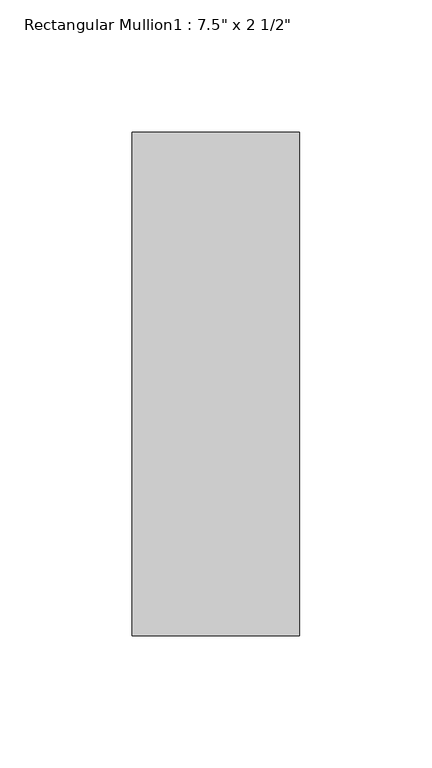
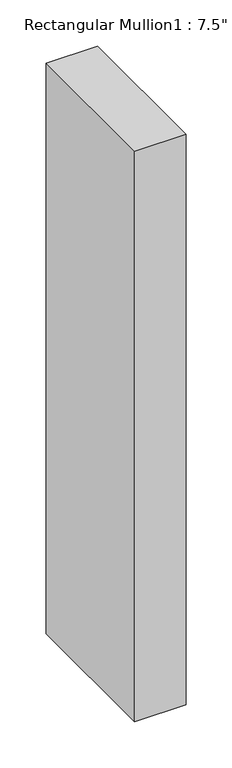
"""IFC4 building model written with IfcOpenShell, lengths in millimetres: member geometry."""

import ifcopenshell
import ifcopenshell.guid

model = None  # the IFC model being written
_history = None  # IfcOwnerHistory: only IFC2X3 demands one
_inside = {}  # id of a spatial element -> (the spatial element, [elements in it])
_under = {}  # id of a project, library or spatial element -> (it, [spatial elements below it])
_declared = {}  # id of a project -> (the project, [libraries it declares])
_typed = {}  # id of a type object -> (the type object, [elements of that type])
_made_of = {}  # id of a material, layer set ... -> (it, [elements and type objects made of it])


def new_model(schema):
    """Start an empty IFC model of exactly this schema.

    Asked for "IFC4X3", IfcOpenShell would pick the latest addendum, in which some entities
    have other attributes; the version numbers below select the first issue.
    IFC2X3 requires an IfcOwnerHistory on every rooted entity: one is made here for all.
    """
    global model, _history
    if schema == "IFC4X3":
        model = ifcopenshell.file(schema_version=(4, 3, 0, 0))
    else:
        model = ifcopenshell.file(schema=schema)
    _inside.clear()
    _under.clear()
    _declared.clear()
    _typed.clear()
    _made_of.clear()
    _history = None
    if model.schema == "IFC2X3":
        org = make("IfcOrganization", Name="unknown")
        user = make(
            "IfcPersonAndOrganization",
            ThePerson=make("IfcPerson", FamilyName="unknown"),
            TheOrganization=org,
        )
        app = make(
            "IfcApplication",
            ApplicationDeveloper=org,
            Version="unknown",
            ApplicationFullName="unknown",
            ApplicationIdentifier="unknown",
        )
        _history = make(
            "IfcOwnerHistory",
            OwningUser=user,
            OwningApplication=app,
            ChangeAction="ADDED",
            CreationDate=0,
        )
    return model


def make(cls, **values):
    """One entity of the class cls with the attributes given. An attribute that is None is left unset."""
    return model.create_entity(
        cls, **{name: value for name, value in values.items() if value is not None}
    )


def rooted(cls, **values):
    """An entity with a GlobalId (a new one), such as an element, a storey or a relation."""
    return make(cls, GlobalId=ifcopenshell.guid.new(), OwnerHistory=_history, **values)


def si_unit(unit_type, name, prefix=None):
    """IfcSIUnit, for example si_unit("LENGTHUNIT", "METRE", prefix="MILLI")."""
    return make("IfcSIUnit", UnitType=unit_type, Prefix=prefix, Name=name)


def assignment(units):
    """IfcUnitAssignment: the units of a project."""
    return None if units is None else make("IfcUnitAssignment", Units=units)


def point(xyz):
    """IfcCartesianPoint."""
    return None if xyz is None else make("IfcCartesianPoint", Coordinates=xyz)


def direction(xyz):
    """IfcDirection."""
    return None if xyz is None else make("IfcDirection", DirectionRatios=xyz)


def frame(location, z_axis=None, x_axis=None):
    """IfcAxis2Placement3D, a coordinate frame: its origin and axes. An axis left out is left unset."""
    return make(
        "IfcAxis2Placement3D",
        Location=point(location),
        Axis=direction(z_axis),
        RefDirection=direction(x_axis),
    )


def origin():
    """The frame at (0, 0, 0) with its axes left unset."""
    return frame((0.0, 0.0, 0.0))


def place(relative_to, where):
    """IfcLocalPlacement: puts the frame where relative to a parent placement (None: the world)."""
    return make(
        "IfcLocalPlacement", PlacementRelTo=relative_to, RelativePlacement=where
    )


def context(
    kind, dimensions, precision=None, world=None, true_north=None, identifier=None
):
    """IfcGeometricRepresentationContext, for example the 3D "Model" context."""
    return make(
        "IfcGeometricRepresentationContext",
        ContextIdentifier=identifier,
        ContextType=kind,
        CoordinateSpaceDimension=dimensions,
        Precision=precision,
        WorldCoordinateSystem=world,
        TrueNorth=true_north,
    )


def project(units=None, contexts=None):
    """IfcProject with its units and contexts."""
    return rooted(
        "IfcProject",
        Name="project",
        RepresentationContexts=contexts,
        UnitsInContext=assignment(units),
    )


def spatial(cls, under=None, at=None, **own):
    """A site, building, storey or space (cls), placed at a placement, below another one or the project."""
    s = rooted(cls, ObjectPlacement=at, **own)
    if under is not None:
        _under.setdefault(under.id(), (under, []))[1].append(s)
    return s


def polyline(points):
    """IfcPolyline through the points."""
    return make("IfcPolyline", Points=[point(p) for p in points])


def outline(outer, holes=None, kind="AREA"):
    """IfcArbitraryClosedProfileDef: a profile drawn as a closed curve; with holes, ...WithVoids."""
    if holes is None:
        return make("IfcArbitraryClosedProfileDef", ProfileType=kind, OuterCurve=outer)
    return make(
        "IfcArbitraryProfileDefWithVoids",
        ProfileType=kind,
        OuterCurve=outer,
        InnerCurves=holes,
    )


def extrude(swept, where, along, depth):
    """IfcExtrudedAreaSolid: the profile swept, set in the frame where, extruded along a direction by depth."""
    return make(
        "IfcExtrudedAreaSolid",
        SweptArea=swept,
        Position=where,
        ExtrudedDirection=direction(along),
        Depth=depth,
    )


def shape(context_of_items, identifier, shape_type, items):
    """IfcShapeRepresentation: the items that make up one representation, for example the "Body"."""
    return make(
        "IfcShapeRepresentation",
        ContextOfItems=context_of_items,
        RepresentationIdentifier=identifier,
        RepresentationType=shape_type,
        Items=items,
    )


def source(mapping_origin, context_of_items, identifier, shape_type, items):
    """IfcRepresentationMap: a shape defined once, which mapped items show again and again."""
    return make(
        "IfcRepresentationMap",
        MappingOrigin=mapping_origin,
        MappedRepresentation=shape(context_of_items, identifier, shape_type, items),
    )


def transform(
    local_origin,
    x_axis=None,
    y_axis=None,
    z_axis=None,
    scale=None,
    scale2=None,
    scale3=None,
    uniform=True,
):
    """IfcCartesianTransformationOperator3D, or its non-uniform kind. x_axis, y_axis, z_axis: its Axis1, 2, 3."""
    if uniform:
        return make(
            "IfcCartesianTransformationOperator3D",
            Axis1=direction(x_axis),
            Axis2=direction(y_axis),
            LocalOrigin=point(local_origin),
            Scale=scale,
            Axis3=direction(z_axis),
        )
    return make(
        "IfcCartesianTransformationOperator3DnonUniform",
        Axis1=direction(x_axis),
        Axis2=direction(y_axis),
        LocalOrigin=point(local_origin),
        Scale=scale,
        Axis3=direction(z_axis),
        Scale2=scale2,
        Scale3=scale3,
    )


def mapped(mapping_source, mapping_target):
    """IfcMappedItem: shows the shape of a source again, moved by a transform."""
    return make(
        "IfcMappedItem", MappingSource=mapping_source, MappingTarget=mapping_target
    )


def made_of(thing, what):
    """Note that an element or type object is made of a material, layer set ...; save() writes the relation."""
    if what is not None:
        _made_of.setdefault(what.id(), (what, []))[1].append(thing)
    return thing


def element(
    cls,
    number,
    at=None,
    inside=None,
    cuts=None,
    type_object=None,
    material=None,
    context=None,
    identifier="Body",
    shape_type=None,
    held_by="IfcProductDefinitionShape",
    body=None,
    shapes=None,
    **own,
):
    """One element of the class cls, such as IfcWall. Its Tag is "e" and its number.

    at: its placement. inside: the storey or other place that contains it. cuts: it is an
    opening in that element (IfcRelVoidsElement). A single representation is given by context,
    identifier, shape_type and body (its items); several are given by shapes. held_by: the class
    of the entity that holds the representations. save() writes the other relations.
    """
    e = rooted(cls, Tag="e%d" % number, ObjectPlacement=at, **own)
    if body is not None:
        shapes = [shape(context, identifier, shape_type, body)]
    if shapes is not None:
        e.Representation = make(held_by, Representations=shapes)
    if inside is not None:
        _inside.setdefault(inside.id(), (inside, []))[1].append(e)
    if cuts is not None:
        rooted(
            "IfcRelVoidsElement", RelatingBuildingElement=cuts, RelatedOpeningElement=e
        )
    if type_object is not None:
        _typed.setdefault(type_object.id(), (type_object, []))[1].append(e)
    return made_of(e, material)


def aggregate(whole, parts):
    """IfcRelAggregates: a whole, such as a stair, and the parts it consists of."""
    return rooted("IfcRelAggregates", RelatingObject=whole, RelatedObjects=parts)


def save(model, path):
    """Write the relations noted so far, then the file.

    IfcRelAggregates (storeys below a building ...), IfcRelContainedInSpatialStructure (elements
    in a storey), IfcRelDefinesByType, IfcRelAssociatesMaterial and IfcRelDeclares: one each for
    every whole, place, type object, material and project.
    """
    for whole, parts in _under.values():
        aggregate(whole, parts)
    for where, things in _inside.values():
        rooted(
            "IfcRelContainedInSpatialStructure",
            RelatedElements=things,
            RelatingStructure=where,
        )
    for kind, things in _typed.values():
        rooted("IfcRelDefinesByType", RelatedObjects=things, RelatingType=kind)
    for what, things in _made_of.values():
        rooted("IfcRelAssociatesMaterial", RelatedObjects=things, RelatingMaterial=what)
    for by, libraries in _declared.values():
        rooted("IfcRelDeclares", RelatingContext=by, RelatedDefinitions=libraries)
    model.write(path)


def member_1b6bff26(model_context):
    return source(origin(), model_context, "Body", "SweptSolid", [
        extrude(outline(polyline([(-63.5, 165.1), (0.0, 165.1), (0.0, -25.4), (-63.5, -25.4), (-63.5, 165.1)])), frame((0.0, 0.0, -749.3), z_axis=(0.0, 0.0, 1.0), x_axis=(1.0, 0.0, 0.0)), (0.0, 0.0, 1.0), 749.3),
    ])


if __name__ == "__main__":
    model = new_model("IFC4")
    model_context = context("Model", 3, world=origin())
    ifc_project = project(units=[si_unit("LENGTHUNIT", "METRE", prefix="MILLI")], contexts=[model_context])
    site = spatial("IfcSite", under=ifc_project)
    building = spatial("IfcBuilding", under=site)
    placement = place(None, origin())
    member_shape = member_1b6bff26(model_context)
    element("IfcMember", 1, ObjectType="Rectangular Mullion1 : 7.5\" x 2 1/2\"", at=placement, inside=building, context=model_context, shape_type="MappedRepresentation", body=[
        mapped(member_shape, transform((0.0, 0.0, 0.0), x_axis=(1.0, 0.0, 0.0), y_axis=(0.0, 1.0, 0.0), z_axis=(0.0, 0.0, 1.0))),
    ])
    save(model, "model.ifc")
